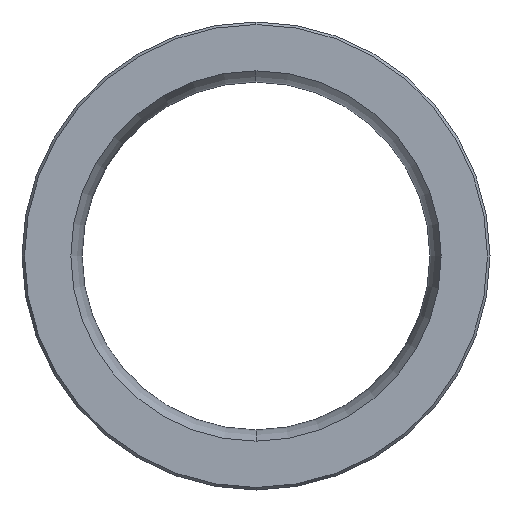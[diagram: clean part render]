
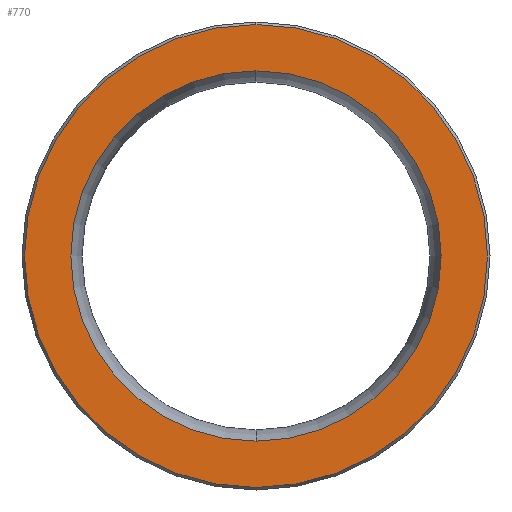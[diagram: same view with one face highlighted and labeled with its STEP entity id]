
A CAD part, left-side view. The second image highlights one B-rep face of the part: STEP entity #770.
In plain terms, the highlighted planar face has unit normal (-1, 0, 0).
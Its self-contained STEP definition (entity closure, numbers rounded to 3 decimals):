
#317=CARTESIAN_POINT('',(0.0,5.0,0.0));
#318=VERTEX_POINT('',#317);
#327=CARTESIAN_POINT('',(0.0,-5.0,0.));
#328=VERTEX_POINT('',#327);
#329=CARTESIAN_POINT('',(0.0,0.0,0.0));
#330=DIRECTION('',(1.0,0.0,0.0));
#331=DIRECTION('',(0.0,1.0,0.0));
#332=AXIS2_PLACEMENT_3D('',#329,#330,#331);
#333=CIRCLE('',#332,5.0);
#334=EDGE_CURVE('',#318,#328,#333,.T.);
#368=CARTESIAN_POINT('',(0.,4.0,0.0));
#369=VERTEX_POINT('',#368);
#376=CARTESIAN_POINT('',(0.0,-4.0,0.));
#377=VERTEX_POINT('',#376);
#378=CARTESIAN_POINT('',(0.,0.0,0.0));
#379=DIRECTION('',(1.0,0.0,0.0));
#380=DIRECTION('',(0.0,1.0,0.0));
#381=AXIS2_PLACEMENT_3D('',#378,#379,#380);
#382=CIRCLE('',#381,4.0);
#383=EDGE_CURVE('',#377,#369,#382,.T.);
#741=CARTESIAN_POINT('',(0.,0.0,0.0));
#742=DIRECTION('',(1.0,0.0,0.0));
#743=DIRECTION('',(0.0,1.0,0.0));
#744=AXIS2_PLACEMENT_3D('',#741,#742,#743);
#745=CIRCLE('',#744,4.0);
#746=EDGE_CURVE('',#369,#377,#745,.T.);
#751=CARTESIAN_POINT('',(0.,4.5,0.0));
#752=DIRECTION('',(-1.0,0.0,0.0));
#753=DIRECTION('',(0.0,0.0,1.0));
#754=AXIS2_PLACEMENT_3D('',#751,#752,#753);
#755=PLANE('',#754);
#756=ORIENTED_EDGE('',*,*,#334,.F.);
#757=CARTESIAN_POINT('',(0.0,0.0,0.0));
#758=DIRECTION('',(1.0,0.0,0.0));
#759=DIRECTION('',(0.0,1.0,0.0));
#760=AXIS2_PLACEMENT_3D('',#757,#758,#759);
#761=CIRCLE('',#760,5.0);
#762=EDGE_CURVE('',#328,#318,#761,.T.);
#763=ORIENTED_EDGE('',*,*,#762,.F.);
#764=EDGE_LOOP('',(#756,#763));
#765=FACE_OUTER_BOUND('',#764,.T.);
#766=ORIENTED_EDGE('',*,*,#746,.T.);
#767=ORIENTED_EDGE('',*,*,#383,.T.);
#768=EDGE_LOOP('',(#766,#767));
#769=FACE_BOUND('',#768,.T.);
#770=ADVANCED_FACE('',(#765,#769),#755,.T.);
